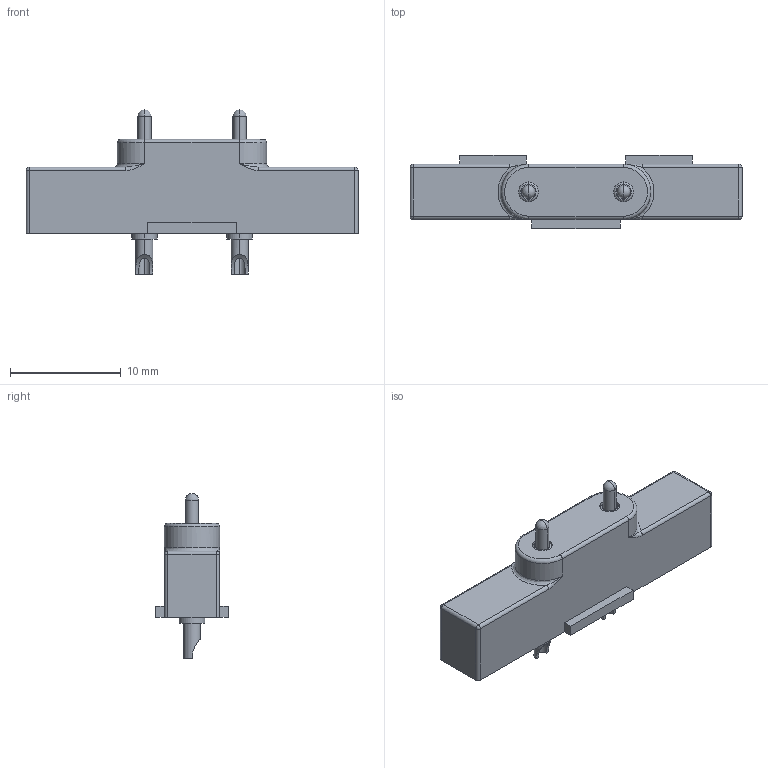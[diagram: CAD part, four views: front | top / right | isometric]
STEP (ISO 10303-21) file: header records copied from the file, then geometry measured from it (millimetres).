
FILE_DESCRIPTION((''),'2;1');
FILE_NAME('C1353-02P_ASM','2022-05-30T17:22:13',('USER'),(''),'CREO PARAMETRIC BY PTC INC, 2018400','CREO PARAMETRIC BY PTC INC, 2018400','');
FILE_SCHEMA(('CONFIG_CONTROL_DESIGN'));
Length unit declared in the file: millimetre
Products named in the file (3): PRT0001; PRT0002; C1353-02P_ASM
Assembly tree (3 placements, depth 2):
  C1353-02P_ASM
    PRT0001
    PRT0002  x2
Bounding box: 30 x 6.6 x 14.9 mm (x, y, z)
Volume: 998.6 mm3; surface area: 1254.9 mm2
Topology: 3 solids, 3 shells, 121 faces, 293 edges, 177 vertices
Faces by surface type: cylinder 58, plane 35, torus 8, sphere 8, cone 8, bspline 4
Entity records: 3039 total; most frequent: CARTESIAN_POINT 726, DIRECTION 506, ORIENTED_EDGE 442, EDGE_CURVE 221, AXIS2_PLACEMENT_3D 202, VERTEX_POINT 141, CIRCLE 107, EDGE_LOOP 106
